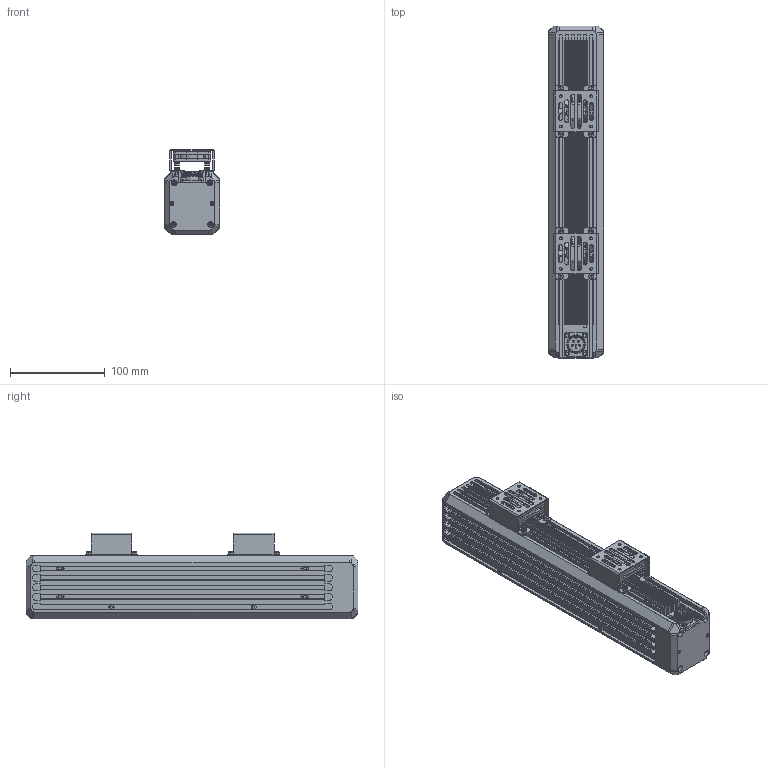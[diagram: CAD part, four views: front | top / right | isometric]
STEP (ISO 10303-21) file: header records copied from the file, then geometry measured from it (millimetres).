
FILE_DESCRIPTION((''),'2;1');
FILE_NAME('PRT0003','2022-09-02T15:38:39',('huguozhe'),(''),'CREO PARAMETRIC BY PTC INC, 2020044','CREO PARAMETRIC BY PTC INC, 2020044','');
FILE_SCHEMA(('AUTOMOTIVE_DESIGN { 1 0 10303 214 1 1 1 1 }'));
Products named in the file (1): PRT0003
Bounding box: 58 x 350 x 90.6 mm (x, y, z)
Volume: 950304.1 mm3; surface area: 286751.8 mm2
Topology: 1 solids, 143 shells, 3201 faces, 8295 edges, 5152 vertices
Faces by surface type: plane 1562, cylinder 1045, cone 400, torus 156, bspline 38
Entity records: 114960 total; most frequent: CARTESIAN_POINT 22745, DIRECTION 17102, ORIENTED_EDGE 15890, EDGE_CURVE 8119, AXIS2_PLACEMENT_3D 6445, VERTEX_POINT 5152, VECTOR 4212, LINE 4212
